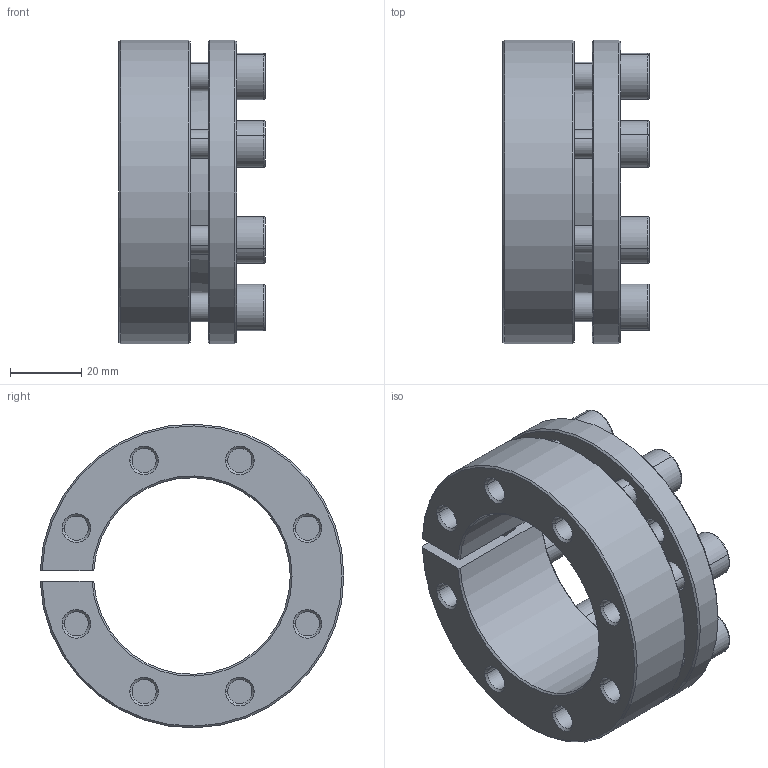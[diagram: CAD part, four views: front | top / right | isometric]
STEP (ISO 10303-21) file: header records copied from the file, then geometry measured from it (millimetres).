
FILE_DESCRIPTION((''),'2;1');
FILE_NAME('398-010-0055','2024-02-17T',('Brieden'),('Brieden'),'PRO/ENGINEER BY PARAMETRIC TECHNOLOGY CORPORATION, 2010160','PRO/ENGINEER BY PARAMETRIC TECHNOLOGY CORPORATION, 2010160','');
FILE_SCHEMA(('AUTOMOTIVE_DESIGN { 1 0 10303 214 1 1 1 1 }'));
Length unit declared in the file: millimetre
Products named in the file (1): 398-010-0055
Bounding box: 41 x 84.97 x 84.99 mm (x, y, z)
Volume: 98083.4 mm3; surface area: 39075.7 mm2
Topology: 1 solids, 9 shells, 232 faces, 546 edges, 348 vertices
Faces by surface type: cylinder 91, plane 86, cone 39, torus 16
Entity records: 8722 total; most frequent: DIRECTION 1256, CARTESIAN_POINT 1199, ORIENTED_EDGE 1060, PRESENTATION_STYLE_ASSIGNMENT 569, STYLED_ITEM 555, CURVE_STYLE 546, EDGE_CURVE 546, AXIS2_PLACEMENT_3D 489
